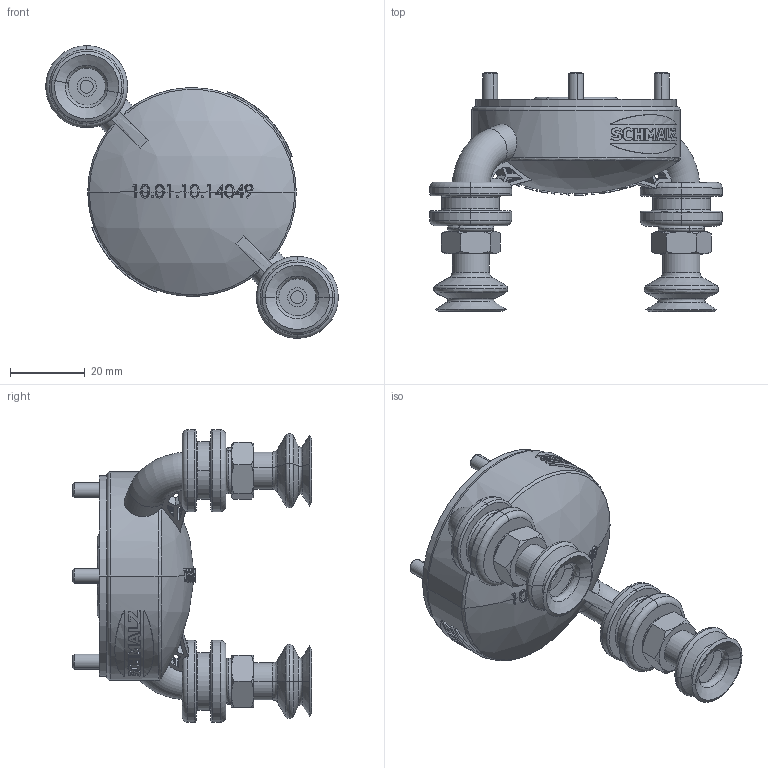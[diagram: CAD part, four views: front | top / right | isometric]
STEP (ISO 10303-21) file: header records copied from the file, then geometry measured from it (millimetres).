
FILE_DESCRIPTION (( 'STEP AP203' ), '1' );
FILE_NAME ('10.01.10.14043K_0_AA.STEP', '2024-08-30T13:19:19', ( 'Windows User' ), ( '' ), 'SwSTEP 2.0', 'SolidWorks 2021', '' );
FILE_SCHEMA (( 'CONFIG_CONTROL_DESIGN' ));
Length unit declared in the file: millimetre
Products named in the file (1): 10.01.10.14043K_0_AA
Bounding box: 78.57 x 64.2 x 78.57 mm (x, y, z)
Volume: 38550.1 mm3; surface area: 29076.5 mm2
Topology: 10 solids, 11 shells, 788 faces, 2035 edges, 1298 vertices
Faces by surface type: plane 215, bspline 210, cylinder 143, torus 104, cone 70, sphere 46
Entity records: 45539 total; most frequent: CARTESIAN_POINT 27715, ORIENTED_EDGE 4062, DIRECTION 3193, EDGE_CURVE 2031, AXIS2_PLACEMENT_3D 1325, VERTEX_POINT 1296, EDGE_LOOP 847, ADVANCED_FACE 788
